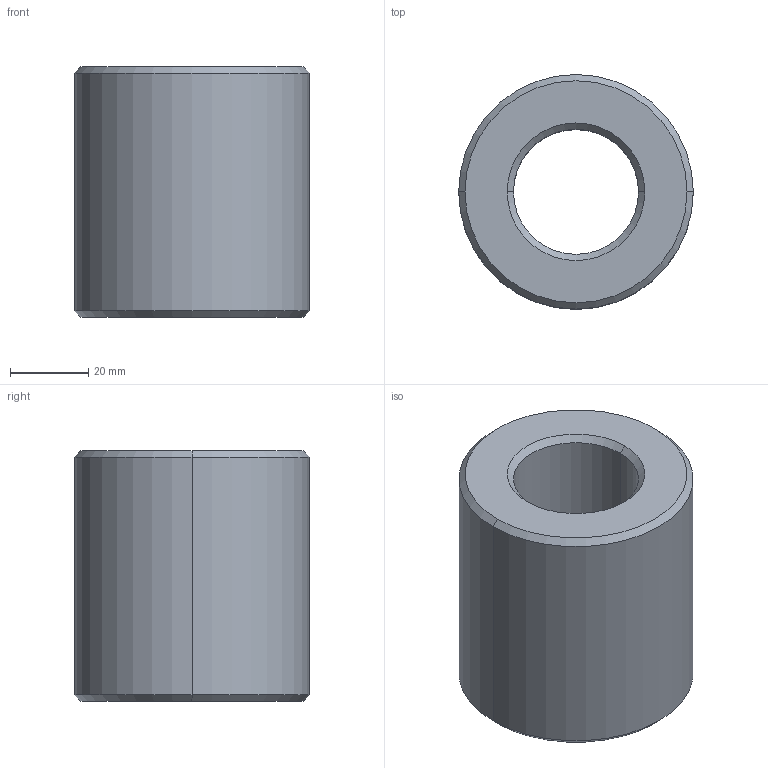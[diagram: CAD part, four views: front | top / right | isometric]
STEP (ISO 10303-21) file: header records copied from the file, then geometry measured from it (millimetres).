
FILE_DESCRIPTION (( 'STEP AP203' ), '1' );
FILE_NAME ('L1330.L32-06.step', '2024-10-24T09:23:29', ( '' ), ( '' ), 'SwSTEP 2.0', 'SolidWorks 2019', '' );
FILE_SCHEMA (( 'CONFIG_CONTROL_DESIGN' ));
Length unit declared in the file: millimetre
Products named in the file (1): L1330.L32-06
Bounding box: 60 x 60 x 64 mm (x, y, z)
Volume: 128744 mm3; surface area: 22002.3 mm2
Topology: 1 solids, 1 shells, 14 faces, 28 edges, 16 vertices
Faces by surface type: cone 8, cylinder 4, plane 2
Entity records: 445 total; most frequent: DIRECTION 74, CARTESIAN_POINT 59, ORIENTED_EDGE 56, AXIS2_PLACEMENT_3D 31, EDGE_CURVE 28, VERTEX_POINT 16, CIRCLE 16, EDGE_LOOP 16
